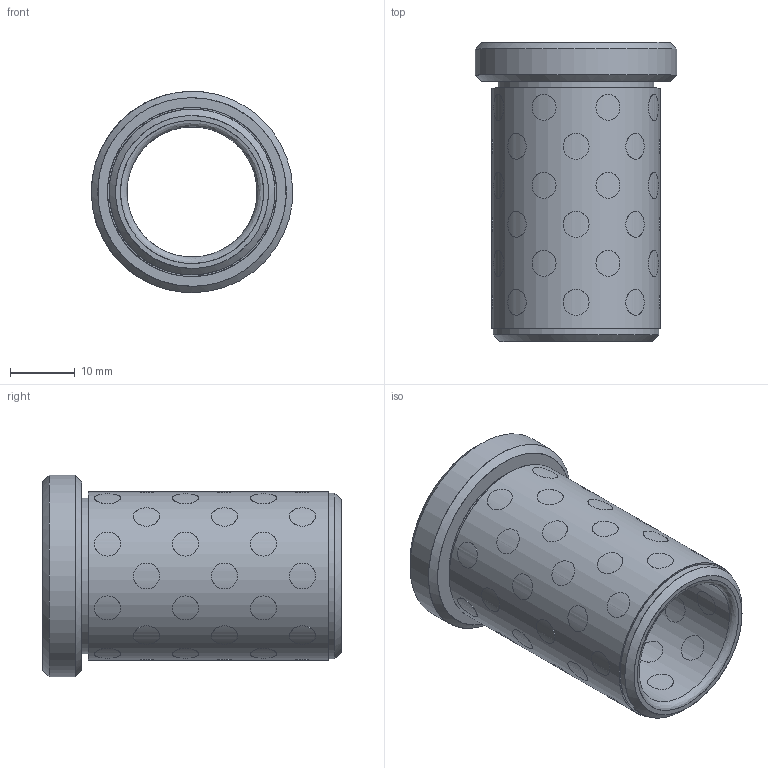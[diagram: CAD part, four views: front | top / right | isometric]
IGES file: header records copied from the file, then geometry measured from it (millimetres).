
Start section: Missler Software BP 521, 31674 Labege Cedex, France Tel   : +33 (0)5 61 00 03 00 Fax   : +33 (0)5 61 00 03 03 Email : sup.topsolid@topsolid.com
Global section: file name: D:\Cuma\D30.05\D30.05_2046.igs; native system: TopSolid v605250 Missler Software; preprocessor: IGES preprocessor v100000; date: 030120.204051; units: millimetre
Bounding box: 30.99 x 46 x 31 mm (x, y, z)
Surface area: 11591.8 mm2 (no closed solid volume)
Topology: 0 solids, 0 shells, 207 faces, 4580 edges, 4444 vertices
Faces by surface type: bspline 207
